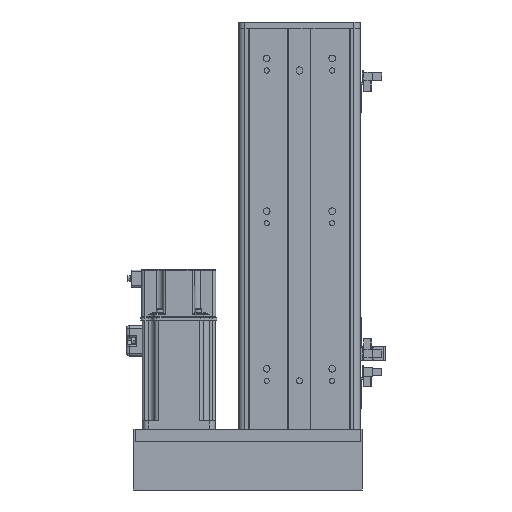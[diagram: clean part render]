
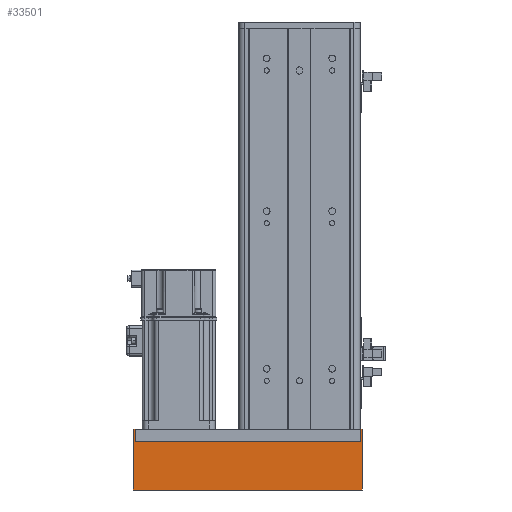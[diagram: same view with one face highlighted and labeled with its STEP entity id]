
A CAD part, front view. The second image highlights one B-rep face of the part: STEP entity #33501.
In plain terms, the highlighted planar face has unit normal (0, -1, 0).
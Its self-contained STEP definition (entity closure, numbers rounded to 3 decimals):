
#2146 = DIRECTION ( 'NONE',  ( 0., 0., -1. ) ) ;
#2503 = CARTESIAN_POINT ( 'NONE',  ( 94.6, -35.5, 0. ) ) ;
#2864 = DIRECTION ( 'NONE',  ( -1., 0., 0. ) ) ;
#3596 = ORIENTED_EDGE ( 'NONE', *, *, #50836, .F. ) ;
#4047 = DIRECTION ( 'NONE',  ( 1., 0., 0. ) ) ;
#4746 = CARTESIAN_POINT ( 'NONE',  ( -94.4, -35.5, 50. ) ) ;
#6588 = ORIENTED_EDGE ( 'NONE', *, *, #24660, .F. ) ;
#7266 = LINE ( 'NONE', #65416, #20339 ) ;
#8366 = VECTOR ( 'NONE', #4047, 1000. ) ;
#8737 = AXIS2_PLACEMENT_3D ( 'NONE', #18059, #43895, #43684 ) ;
#9994 = EDGE_CURVE ( 'NONE', #18785, #48707, #56935, .T. ) ;
#12484 = CARTESIAN_POINT ( 'NONE',  ( 93., -35.5, 48.4 ) ) ;
#13164 = VECTOR ( 'NONE', #17961, 1000. ) ;
#14342 = CARTESIAN_POINT ( 'NONE',  ( -92.8, -35.5, 50. ) ) ;
#14875 = FACE_OUTER_BOUND ( 'NONE', #62181, .T. ) ;
#17961 = DIRECTION ( 'NONE',  ( 0., 0., 1. ) ) ;
#18059 = CARTESIAN_POINT ( 'NONE',  ( -92.8, -35.5, 48.4 ) ) ;
#18785 = VERTEX_POINT ( 'NONE', #21657 ) ;
#19224 = ORIENTED_EDGE ( 'NONE', *, *, #48067, .F. ) ;
#20149 = DIRECTION ( 'NONE',  ( 0., 0., 1. ) ) ;
#20339 = VECTOR ( 'NONE', #2864, 1000. ) ;
#21121 = ORIENTED_EDGE ( 'NONE', *, *, #44709, .F. ) ;
#21148 = CARTESIAN_POINT ( 'NONE',  ( -92.8, -35.5, 10. ) ) ;
#21657 = CARTESIAN_POINT ( 'NONE',  ( -92.8, -35.5, 0. ) ) ;
#23340 = PLANE ( 'NONE',  #8737 ) ;
#24660 = EDGE_CURVE ( 'NONE', #34648, #53803, #27142, .T. ) ;
#27142 = LINE ( 'NONE', #12484, #13164 ) ;
#27903 = VERTEX_POINT ( 'NONE', #2503 ) ;
#28574 = VECTOR ( 'NONE', #39516, 1000. ) ;
#30704 = DIRECTION ( 'NONE',  ( 0., 0., 1. ) ) ;
#33229 = LINE ( 'NONE', #33709, #65822 ) ;
#33501 = ADVANCED_FACE ( 'NONE', ( #14875 ), #23340, .F. ) ;
#33709 = CARTESIAN_POINT ( 'NONE',  ( -92.8, -35.5, 48.4 ) ) ;
#34139 = VERTEX_POINT ( 'NONE', #21148 ) ;
#34648 = VERTEX_POINT ( 'NONE', #42773 ) ;
#35502 = VECTOR ( 'NONE', #30704, 1000. ) ;
#36603 = VECTOR ( 'NONE', #20149, 1000. ) ;
#37382 = CARTESIAN_POINT ( 'NONE',  ( 93., -35.5, 10. ) ) ;
#37850 = LINE ( 'NONE', #14342, #8366 ) ;
#39269 = DIRECTION ( 'NONE',  ( -1., 0., 0. ) ) ;
#39516 = DIRECTION ( 'NONE',  ( -1., 0., 0. ) ) ;
#39818 = CARTESIAN_POINT ( 'NONE',  ( 94.6, -35.5, 48.4 ) ) ;
#39890 = ORIENTED_EDGE ( 'NONE', *, *, #9994, .F. ) ;
#42773 = CARTESIAN_POINT ( 'NONE',  ( 93., -35.5, 0. ) ) ;
#43684 = DIRECTION ( 'NONE',  ( 0., 0., 1. ) ) ;
#43895 = DIRECTION ( 'NONE',  ( 0., 1., 0. ) ) ;
#44284 = CARTESIAN_POINT ( 'NONE',  ( -92.8, -35.5, 0. ) ) ;
#44709 = EDGE_CURVE ( 'NONE', #48707, #50199, #46136, .T. ) ;
#44754 = CARTESIAN_POINT ( 'NONE',  ( -92.8, -35.5, 0. ) ) ;
#46136 = LINE ( 'NONE', #61712, #35502 ) ;
#46603 = EDGE_CURVE ( 'NONE', #50199, #53588, #37850, .T. ) ;
#48067 = EDGE_CURVE ( 'NONE', #53803, #34139, #7266, .T. ) ;
#48672 = EDGE_CURVE ( 'NONE', #27903, #53588, #57042, .T. ) ;
#48707 = VERTEX_POINT ( 'NONE', #67584 ) ;
#49828 = ORIENTED_EDGE ( 'NONE', *, *, #46603, .F. ) ;
#50199 = VERTEX_POINT ( 'NONE', #4746 ) ;
#50217 = ORIENTED_EDGE ( 'NONE', *, *, #60287, .F. ) ;
#50798 = ORIENTED_EDGE ( 'NONE', *, *, #48672, .T. ) ;
#50836 = EDGE_CURVE ( 'NONE', #34139, #18785, #33229, .T. ) ;
#53588 = VERTEX_POINT ( 'NONE', #61122 ) ;
#53803 = VERTEX_POINT ( 'NONE', #37382 ) ;
#54531 = VECTOR ( 'NONE', #39269, 1000. ) ;
#56935 = LINE ( 'NONE', #44284, #54531 ) ;
#57042 = LINE ( 'NONE', #39818, #36603 ) ;
#60287 = EDGE_CURVE ( 'NONE', #27903, #34648, #64494, .T. ) ;
#61122 = CARTESIAN_POINT ( 'NONE',  ( 94.6, -35.5, 50. ) ) ;
#61712 = CARTESIAN_POINT ( 'NONE',  ( -94.4, -35.5, 48.4 ) ) ;
#62181 = EDGE_LOOP ( 'NONE', ( #6588, #50217, #50798, #49828, #21121, #39890, #3596, #19224 ) ) ;
#64494 = LINE ( 'NONE', #44754, #28574 ) ;
#65416 = CARTESIAN_POINT ( 'NONE',  ( -92.8, -35.5, 10. ) ) ;
#65822 = VECTOR ( 'NONE', #2146, 1000. ) ;
#67584 = CARTESIAN_POINT ( 'NONE',  ( -94.4, -35.5, 0. ) ) ;
